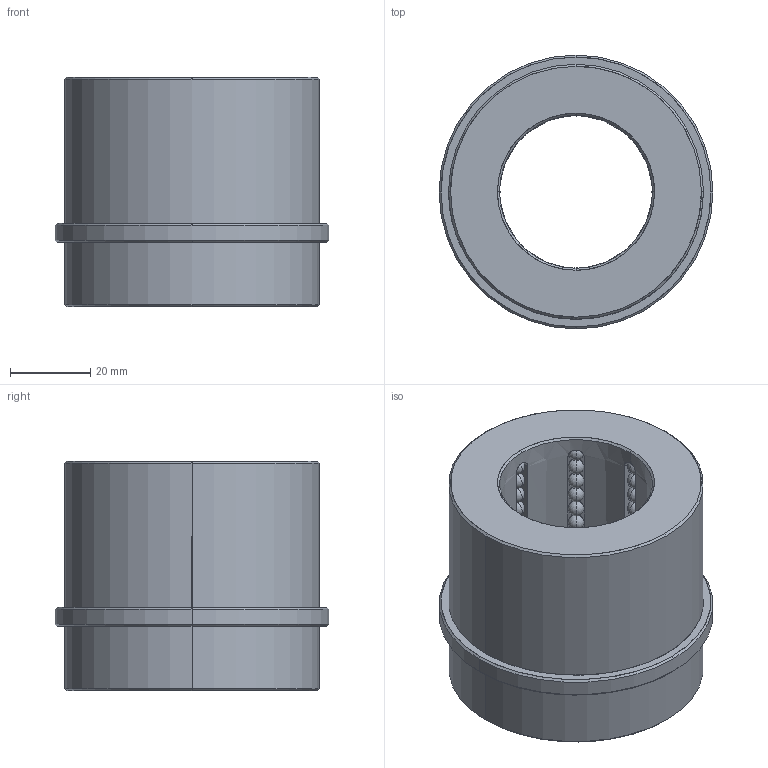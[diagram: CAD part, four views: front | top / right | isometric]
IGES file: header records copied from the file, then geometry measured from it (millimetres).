
Start section: START RECORD GO HERE.
Global section: file name: BGEB1500.igs; native system: DASSAULT SYSTEMES CATIA V5 R20 - www.3ds.com; preprocessor: CATIA Version 5 Release 20 ; author: Utente; organization: NB04-ASUS; date: 20200419.195648; units: millimetre
Bounding box: 68.25 x 68.25 x 57.15 mm (x, y, z)
Surface area: 31210.8 mm2 (no closed solid volume)
Topology: 0 solids, 0 shells, 460 faces, 1908 edges, 1140 vertices
Faces by surface type: revolution 432, plane 28
